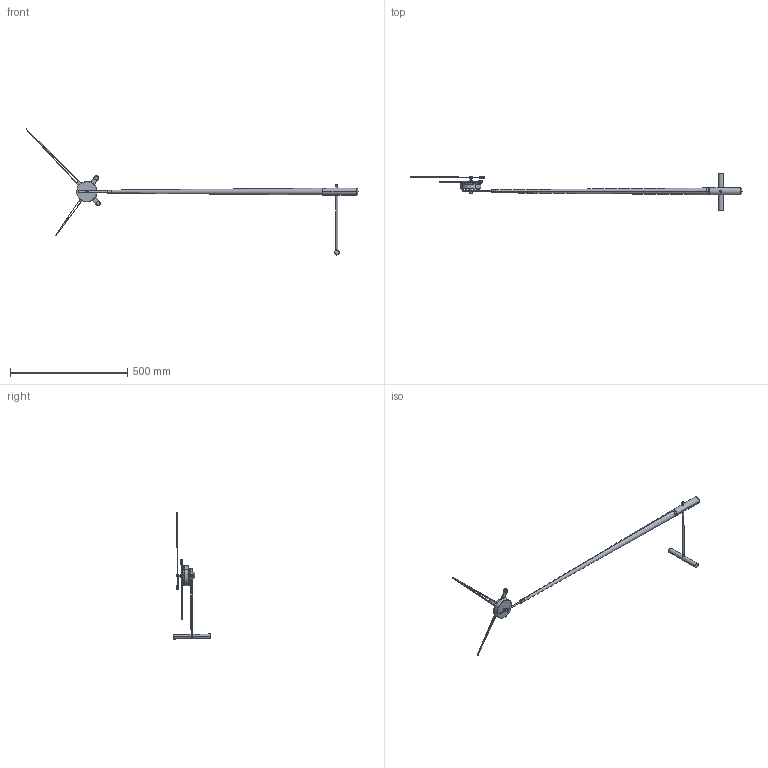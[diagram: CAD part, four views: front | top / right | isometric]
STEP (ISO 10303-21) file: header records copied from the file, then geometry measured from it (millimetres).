
FILE_DESCRIPTION (( 'STEP AP214' ), '1' );
FILE_NAME ('Pisa.STEP', '2016-09-23T07:37:41', ( 'Usuario' ), ( '' ), 'SwSTEP 2.0', 'SolidWorks 2016', '' );
FILE_SCHEMA (( 'AUTOMOTIVE_DESIGN' ));
Length unit declared in the file: millimetre
Products named in the file (28): Pieza2; Tuerca 1.5; Arandela_dentada_Pisa; Cuerpo_Pisa; aguja_minutera_calada_nogal_74; Inserto horaria; Cierre_contrapeso; Mecanismo; Aguja_minutera_calada_nogal_74; tuerca_7.3_1.5; Aguja_horaria_calada_nogal_74; Pieza_caja_superior; Varilla_axioma_Pisa; aguja_horaria_calada_nogal_74; Apoyo_cuerpo_Pisa; Varilla_base_Pisa; Pieza_caja_inferior; Esparrago; Arandela_2; Contrapeso_pequeño; Caja_acero_inox; Tornillo_base_Pisa; Ecler_Pisa; Axioma_n_74; Embellecedor; Base_Pisa; Tornillo_espaciador_Pisa; Pisa
Assembly tree (33 placements, depth 4):
  Pisa
    Cuerpo_Pisa
    Apoyo_cuerpo_Pisa
    Base_Pisa
    Varilla_axioma_Pisa
    Varilla_base_Pisa
    Arandela_dentada_Pisa  x4
    Tornillo_base_Pisa
    Tornillo_espaciador_Pisa
    Ecler_Pisa
    Axioma_n_74
      Caja_acero_inox
        Pieza_caja_inferior
        Pieza_caja_superior
        Mecanismo
        Pieza2
      Aguja_horaria_calada_nogal_74
        aguja_horaria_calada_nogal_74
        Inserto horaria
        tuerca_7.3_1.5
        Arandela_2
        Contrapeso_pequeño
        Cierre_contrapeso
      Aguja_minutera_calada_nogal_74
        aguja_minutera_calada_nogal_74
        Contrapeso_pequeño
        Cierre_contrapeso
        Arandela_2
        Embellecedor
        Esparrago
        Tuerca 1.5
Bounding box: 1415.34 x 160.19 x 537.36 mm (x, y, z)
Volume: 580720.9 mm3; surface area: 185099.8 mm2
Topology: 29 solids, 29 shells, 366 faces, 766 edges, 490 vertices
Faces by surface type: cylinder 190, plane 122, torus 28, cone 22, sphere 4
Entity records: 10630 total; most frequent: CARTESIAN_POINT 2109, DIRECTION 1758, ORIENTED_EDGE 1376, AXIS2_PLACEMENT_3D 739, EDGE_CURVE 688, VERTEX_POINT 438, EDGE_LOOP 394, CIRCLE 374
